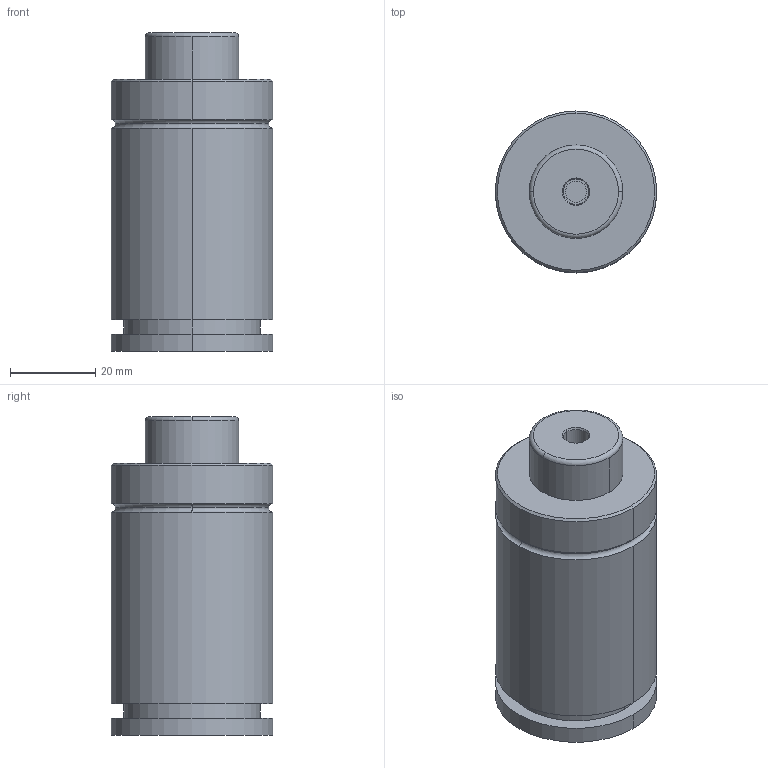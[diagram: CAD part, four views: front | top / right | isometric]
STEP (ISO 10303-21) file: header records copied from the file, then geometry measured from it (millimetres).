
FILE_DESCRIPTION(('FreeCAD Model'),'2;1');
FILE_NAME('Open CASCADE Shape Model','2024-11-12T15:40:58',('Author'),( ''),'Open CASCADE STEP processor 7.6','FreeCAD','Unknown');
FILE_SCHEMA(('AUTOMOTIVE_DESIGN { 1 0 10303 214 1 1 1 1 }'));
Length unit declared in the file: millimetre
Products named in the file (3): Part001; Cut; 2
Assembly tree (2 placements, depth 2):
  Part001
    Cut
    2
Bounding box: 38 x 38 x 75 mm (x, y, z)
Volume: 70104.6 mm3; surface area: 13640.3 mm2
Topology: 2 solids, 2 shells, 41 faces, 85 edges, 55 vertices
Faces by surface type: cylinder 20, plane 11, torus 6, cone 4
Full cylindrical faces by diameter (mm): 6 x2
Entity records: 1191 total; most frequent: DIRECTION 234, CARTESIAN_POINT 184, ORIENTED_EDGE 170, AXIS2_PLACEMENT_3D 105, EDGE_CURVE 85, CIRCLE 61, VERTEX_POINT 55, FACE_BOUND 50
